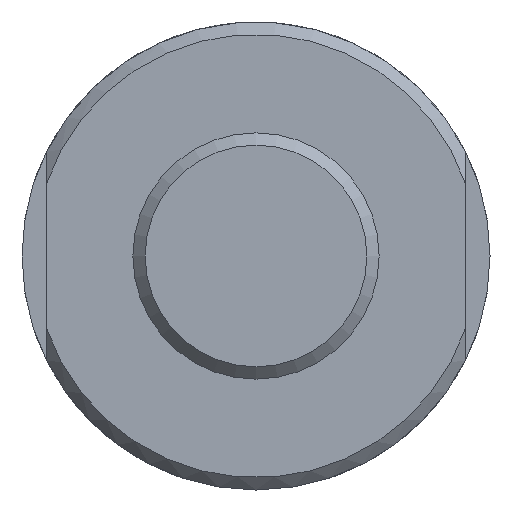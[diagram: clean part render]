
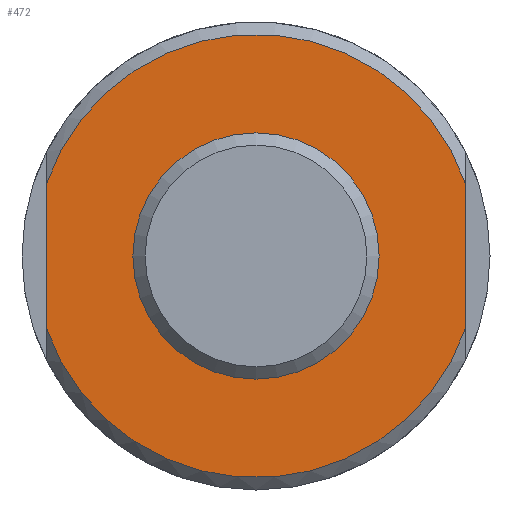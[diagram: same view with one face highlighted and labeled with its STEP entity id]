
A CAD part, left-side view. The second image highlights one B-rep face of the part: STEP entity #472.
In plain terms, the highlighted planar face has unit normal (-1, 0, 0).
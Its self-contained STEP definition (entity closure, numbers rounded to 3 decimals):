
#69=CIRCLE('',#552,5.);
#70=CIRCLE('',#553,9.);
#71=CIRCLE('',#554,9.);
#138=ORIENTED_EDGE('',*,*,#219,.T.);
#139=ORIENTED_EDGE('',*,*,#220,.F.);
#140=ORIENTED_EDGE('',*,*,#221,.F.);
#141=ORIENTED_EDGE('',*,*,#222,.T.);
#142=ORIENTED_EDGE('',*,*,#223,.F.);
#219=EDGE_CURVE('',#267,#267,#69,.T.);
#220=EDGE_CURVE('',#268,#269,#298,.T.);
#221=EDGE_CURVE('',#270,#268,#70,.T.);
#222=EDGE_CURVE('',#270,#271,#299,.T.);
#223=EDGE_CURVE('',#269,#271,#71,.T.);
#267=VERTEX_POINT('',#812);
#268=VERTEX_POINT('',#814);
#269=VERTEX_POINT('',#815);
#270=VERTEX_POINT('',#817);
#271=VERTEX_POINT('',#819);
#298=LINE('',#813,#316);
#299=LINE('',#818,#317);
#316=VECTOR('',#673,1000.);
#317=VECTOR('',#676,1000.);
#354=EDGE_LOOP('',(#138));
#355=EDGE_LOOP('',(#139,#140,#141,#142));
#410=FACE_BOUND('',#354,.T.);
#411=FACE_BOUND('',#355,.T.);
#446=PLANE('',#551);
#472=ADVANCED_FACE('',(#410,#411),#446,.F.);
#551=AXIS2_PLACEMENT_3D('',#810,#669,#670);
#552=AXIS2_PLACEMENT_3D('',#811,#671,#672);
#553=AXIS2_PLACEMENT_3D('',#816,#674,#675);
#554=AXIS2_PLACEMENT_3D('',#820,#677,#678);
#669=DIRECTION('',(1.,0.,0.));
#670=DIRECTION('',(0.,0.,-1.));
#671=DIRECTION('',(1.,0.,0.));
#672=DIRECTION('',(0.,0.,-1.));
#673=DIRECTION('',(0.,0.,-1.));
#674=DIRECTION('',(1.,0.,0.));
#675=DIRECTION('',(0.,0.,-1.));
#676=DIRECTION('',(0.,0.,-1.));
#677=DIRECTION('',(1.,0.,0.));
#678=DIRECTION('',(0.,0.,-1.));
#810=CARTESIAN_POINT('',(0.,0.,0.));
#811=CARTESIAN_POINT('',(0.,0.,0.));
#812=CARTESIAN_POINT('',(0.,0.,-5.));
#813=CARTESIAN_POINT('',(0.,-8.5,10.));
#814=CARTESIAN_POINT('',(0.,-8.5,2.958));
#815=CARTESIAN_POINT('',(0.,-8.5,-2.958));
#816=CARTESIAN_POINT('',(0.,0.,0.));
#817=CARTESIAN_POINT('',(0.,8.5,2.958));
#818=CARTESIAN_POINT('',(0.,8.5,10.));
#819=CARTESIAN_POINT('',(0.,8.5,-2.958));
#820=CARTESIAN_POINT('',(0.,0.,0.));
